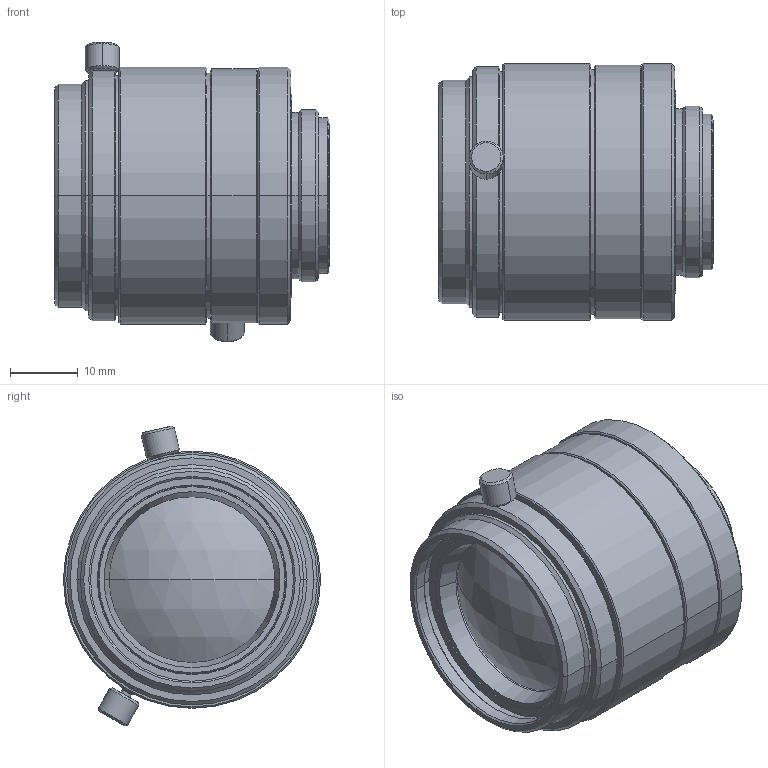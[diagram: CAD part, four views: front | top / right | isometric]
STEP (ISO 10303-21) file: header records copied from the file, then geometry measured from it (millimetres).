
FILE_DESCRIPTION (( 'STEP AP203' ), '1' );
FILE_NAME ('VS-3514H1.STEP', '2016-12-08T04:12:55', ( 'miura_vst' ), ( '' ), 'SwSTEP 2.0', 'SolidWorks 2016', '' );
FILE_SCHEMA (( 'CONFIG_CONTROL_DESIGN' ));
Length unit declared in the file: millimetre
Products named in the file (1): VS-3514H1
Bounding box: 40.52 x 38 x 44.32 mm (x, y, z)
Volume: 36793.6 mm3; surface area: 7902.6 mm2
Topology: 1 solids, 1 shells, 116 faces, 230 edges, 134 vertices
Faces by surface type: cone 52, cylinder 42, plane 18, sphere 4
Entity records: 3111 total; most frequent: DIRECTION 592, CARTESIAN_POINT 541, ORIENTED_EDGE 460, AXIS2_PLACEMENT_3D 249, EDGE_CURVE 230, VERTEX_POINT 134, EDGE_LOOP 134, CIRCLE 132
